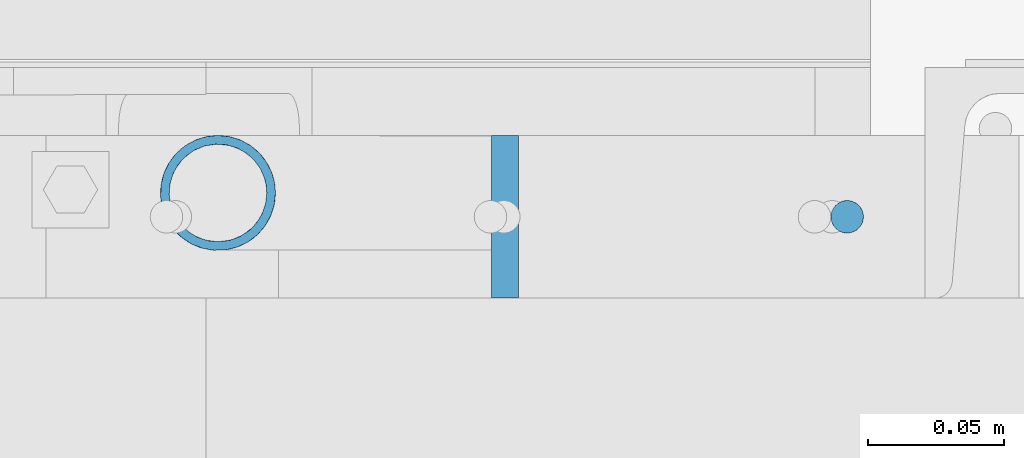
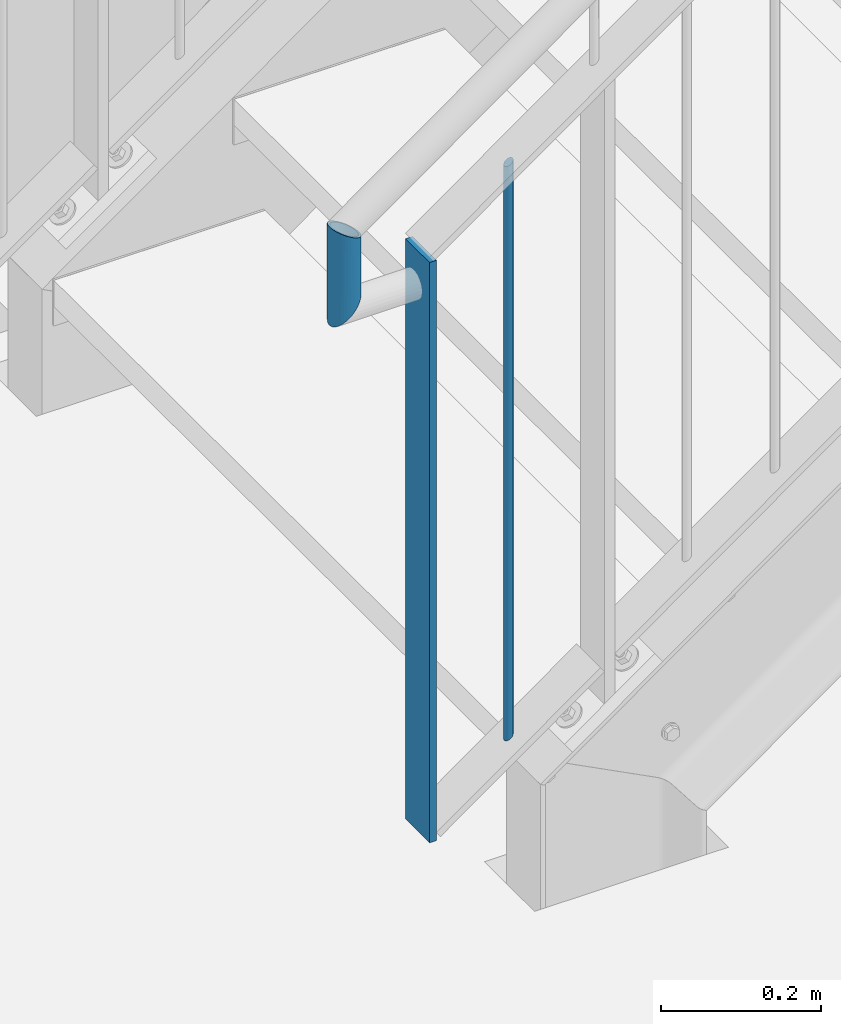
# One storey, part 24 of 821: 3 columns.
"""IFC2X3 building model written with IfcOpenShell, lengths in millimetres."""

from ifc_helpers import new_model, entity, si_unit, converted_unit, frame, origin, origin_with_axes, origin_2d, place, context, project, spatial, rectangle, circle, hollow_circle, extrude, clip, halfspace, material, element, save


model = new_model("IFC2X3")

# Units and contexts
model_context = context("Model", 3, precision=1e-09, world=origin_with_axes())
ifc_project = project(units=[si_unit("LENGTHUNIT", "METRE", prefix="MILLI"), si_unit("AREAUNIT", "SQUARE_METRE"), si_unit("VOLUMEUNIT", "CUBIC_METRE"), converted_unit("PLANEANGLEUNIT", "DEGREE", entity("IfcPlaneAngleMeasure", 0.01745329), si_unit("PLANEANGLEUNIT", "RADIAN"), dimensions=[0, 0, 0, 0, 0, 0, 0])], contexts=[model_context])

# Site, building, storey
site_placement = place(None, origin_with_axes())
site = spatial("IfcSite", under=ifc_project, at=site_placement, Name="Cnopf'sche Kinderklinik", CompositionType="ELEMENT")
building_placement = place(site_placement, origin_with_axes())
building = spatial("IfcBuilding", under=site, at=building_placement, Name="Struktur 1", CompositionType="ELEMENT")
storey_placement = place(building_placement, origin_with_axes())
storey = spatial("IfcBuildingStorey", under=building, at=storey_placement, Name="Default Storey", CompositionType="ELEMENT", Elevation=0.0)

# Columns
ifc_material = material(Name="S235JR")
column_1_placement = place(None, frame((5193.044323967, 6091.736971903, 1496.132045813), z_axis=(0.0, 0.0, 1.0), x_axis=(1.0, 0.0, 0.0)))
element("IfcColumn", 1, at=column_1_placement, inside=storey, material=ifc_material, Name="Railing_Picket_Stair#7", ObjectType="Railing_Picket_Stair#7", context=model_context, shape_type="Clipping", body=[
    clip(clip(extrude(circle(Radius=6.0, at=origin_2d()), origin(), (0.0, 0.0, -1.0), 896.604693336), halfspace(frame((-4148.212425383, -6091.736971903, -2963.709406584), z_axis=(0.579973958, 0.0, -0.814635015), x_axis=(0.0, 1.0, 0.0)), True)), halfspace(frame((-3734.439855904, -6091.736971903, -3544.896922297), z_axis=(-0.579973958, 0.0, 0.814635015), x_axis=(0.0, -1.0, 0.0)), True)),
])
column_2_placement = place(None, frame((5066.878639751, 6091.736971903, 1396.462546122), z_axis=(0.0, 0.0, 1.0), x_axis=(1.0, 0.0, 0.0)))
element("IfcColumn", 2, at=column_2_placement, inside=storey, material=ifc_material, Name="Railing_Post_Stair#0", ObjectType="Railing_Post_Stair#0", context=model_context, shape_type="SweptSolid", body=[
    extrude(rectangle(XDim=10.0, YDim=60.0, at=origin_2d()), origin(), (0.0, 0.0, -1.0), 885.057676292),
])
column_3_placement = place(None, frame((4961.101665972, 6100.536971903, 1298.8000007), z_axis=(0.0, 0.0, -1.0), x_axis=(1.0, 0.0, 0.0)))
element("IfcColumn", 3, at=column_3_placement, inside=storey, material=ifc_material, Name="Railing_Handrail_Landing#0", ObjectType="Railing_Handrail_Landing#0", context=model_context, shape_type="Clipping", body=[
    clip(clip(extrude(hollow_circle(Radius=21.2, WallThickness=3.2, at=origin_2d()), origin(), (0.0, 0.0, -1.0), 193.817233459), halfspace(frame((-3324.976639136, 6100.536971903, -1874.443088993), z_axis=(-0.458271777, 0.0, 0.888812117), x_axis=(0.0, 1.0, 0.0)), True)), halfspace(frame((-3151.151540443, 6100.536971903, 3108.750126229), z_axis=(-0.707106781, 0.0, -0.707106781), x_axis=(0.0, 1.0, 0.0)), True)),
])

save(model, "model.ifc")
